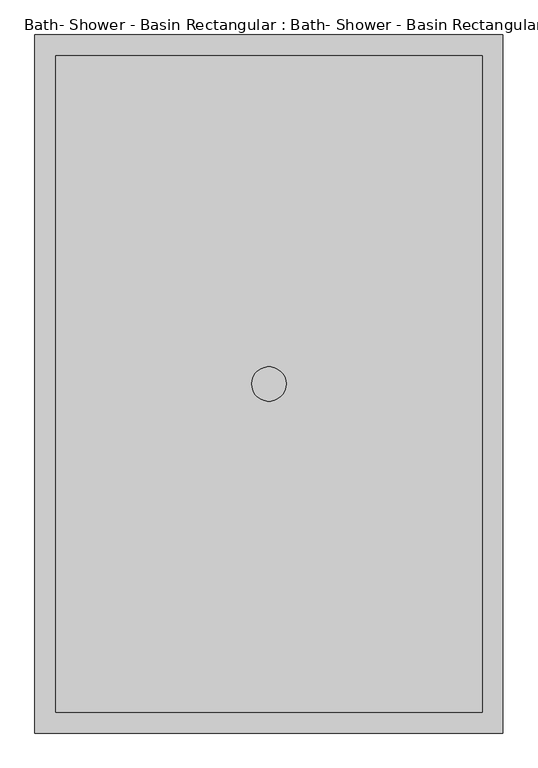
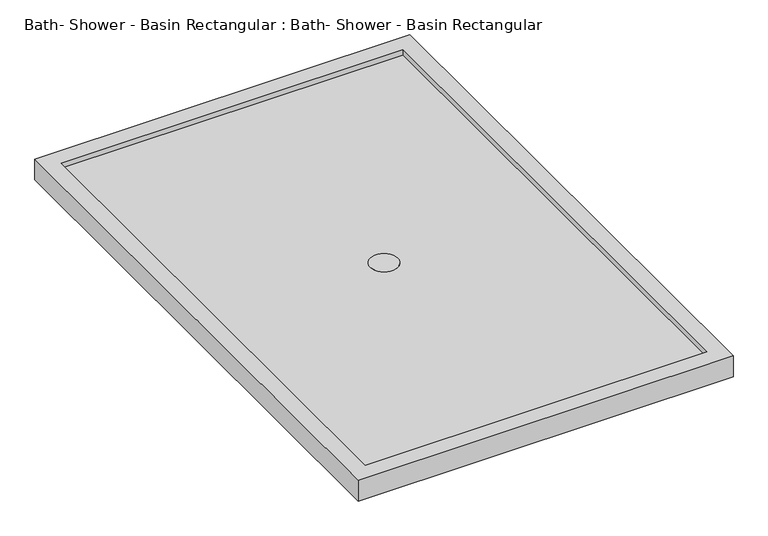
"""IFC4 building model written with IfcOpenShell, lengths in millimetres: flow terminal geometry, Bath- Shower - Basin Rectangular : Bath- Shower - Basin Rectangular."""

from ifc_helpers import new_model, si_unit, point, frame_2d, origin, origin_with_axes, place, context, project, spatial, circle_curve, trimmed, segment, composite_curve, outline, extrude, faceted_brep, source, transform, mapped, element, save


def bath_shower_basin_rectangular_bath_shower_basin_rectangular_31fc09b4(model_context):
    return source(origin(), model_context, "Body", "SolidModel", [
        extrude(outline(composite_curve([segment(trimmed(circle_curve(frame_2d((0.1, 0.15)), 31.75), [point((-31.65, 0.15))], [point((31.85, 0.15))], False, "CARTESIAN"), True, "CONTINUOUS"), segment(trimmed(circle_curve(frame_2d((0.1, 0.15)), 31.75), [point((31.85, 0.15))], [point((-31.65, 0.15))], False, "CARTESIAN"), True, "CONTINUOUS")], self_intersect=False)), origin_with_axes(), (0.0, 0.0, 1.0), 38.1),
        faceted_brep([(431.8, 644.525, 50.8), (-431.8, 644.525, 50.8), (-431.8, -644.525, 50.8), (431.8, -644.525, 50.8), (-393.7, 606.425, 50.8), (393.7, 606.425, 50.8), (393.7, -606.425, 50.8), (-393.7, -606.425, 50.8), (431.8, 644.525, 0.0), (431.8, -644.525, 0.0), (-431.8, -644.525, 0.0), (-431.8, 644.525, 0.0), (393.7, 606.425, 38.1), (-393.7, 606.425, 38.1), (-393.7, -606.425, 38.1), (393.7, -606.425, 38.1)], [[[0, 1, 2, 3], [4, 5, 6, 7]], [[8, 9, 10, 11]], [[1, 0, 8, 11]], [[2, 1, 11, 10]], [[3, 2, 10, 9]], [[0, 3, 9, 8]], [[12, 13, 14, 15]], [[13, 12, 5, 4]], [[14, 13, 4, 7]], [[15, 14, 7, 6]], [[12, 15, 6, 5]]]),
    ])


if __name__ == "__main__":
    model = new_model("IFC4")
    model_context = context("Model", 3, world=origin())
    ifc_project = project(units=[si_unit("LENGTHUNIT", "METRE", prefix="MILLI")], contexts=[model_context])
    site = spatial("IfcSite", under=ifc_project)
    building = spatial("IfcBuilding", under=site)
    placement = place(None, origin())
    bath_shower_basin_rectangular_bath_shower_basin_rectangular_shape = bath_shower_basin_rectangular_bath_shower_basin_rectangular_31fc09b4(model_context)
    element("IfcFlowTerminal", 1, ObjectType="Bath- Shower - Basin Rectangular : Bath- Shower - Basin Rectangular", at=placement, inside=building, context=model_context, shape_type="MappedRepresentation", body=[
        mapped(bath_shower_basin_rectangular_bath_shower_basin_rectangular_shape, transform((0.0, 0.0, 0.0), x_axis=(1.0, 0.0, 0.0), y_axis=(0.0, 1.0, 0.0), z_axis=(0.0, 0.0, 1.0))),
    ])
    save(model, "model.ifc")
